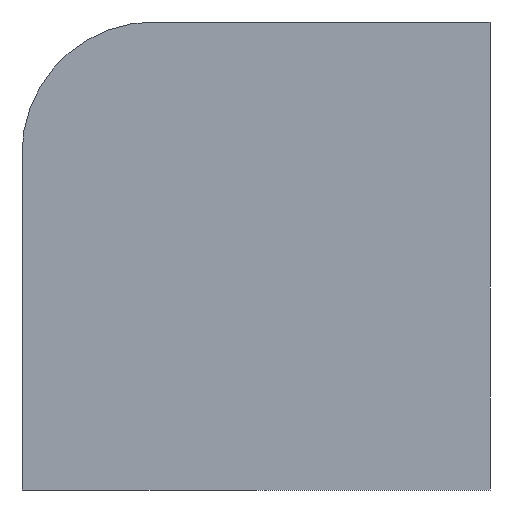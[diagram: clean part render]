
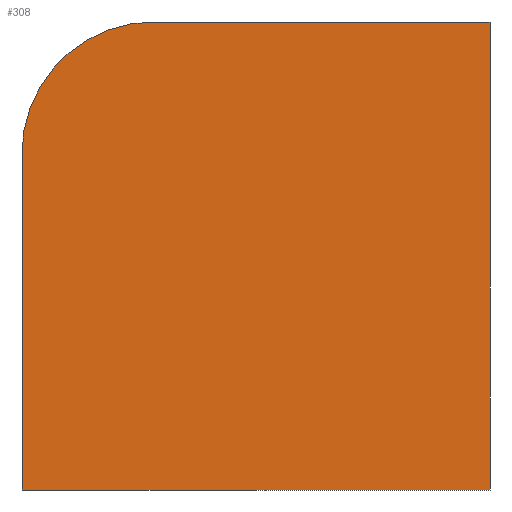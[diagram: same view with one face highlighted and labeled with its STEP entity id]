
A CAD part, left-side view. The second image highlights one B-rep face of the part: STEP entity #308.
In plain terms, the highlighted planar face has unit normal (-1, 0, 0).
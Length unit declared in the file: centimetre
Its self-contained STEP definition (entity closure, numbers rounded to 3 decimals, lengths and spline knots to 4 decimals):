
#5 = VECTOR ( 'NONE', #399, 100. ) ;
#10 = LINE ( 'NONE', #271, #443 ) ;
#20 = ORIENTED_EDGE ( 'NONE', *, *, #105, .T. ) ;
#49 = DIRECTION ( 'NONE',  ( 0., 0., -1. ) ) ;
#63 = EDGE_CURVE ( 'NONE', #275, #818, #713, .T. ) ;
#90 = ORIENTED_EDGE ( 'NONE', *, *, #580, .F. ) ;
#94 = VERTEX_POINT ( 'NONE', #270 ) ;
#101 = ORIENTED_EDGE ( 'NONE', *, *, #759, .T. ) ;
#105 = EDGE_CURVE ( 'NONE', #94, #564, #131, .T. ) ;
#131 = LINE ( 'NONE', #720, #176 ) ;
#169 = DIRECTION ( 'NONE',  ( 1., 0., 0. ) ) ;
#173 = CARTESIAN_POINT ( 'NONE',  ( 0., 718.7641, 718.7641 ) ) ;
#176 = VECTOR ( 'NONE', #537, 100. ) ;
#198 = LINE ( 'NONE', #396, #458 ) ;
#235 = EDGE_CURVE ( 'NONE', #564, #818, #198, .T. ) ;
#250 = AXIS2_PLACEMENT_3D ( 'NONE', #432, #169, #439 ) ;
#263 = CARTESIAN_POINT ( 'NONE',  ( 0., 0., 1000. ) ) ;
#267 = AXIS2_PLACEMENT_3D ( 'NONE', #173, #445, #49 ) ;
#270 = CARTESIAN_POINT ( 'NONE',  ( 0., 1000., 718.7641 ) ) ;
#271 = CARTESIAN_POINT ( 'NONE',  ( 0., 1000., 1000. ) ) ;
#275 = VERTEX_POINT ( 'NONE', #385 ) ;
#289 = ORIENTED_EDGE ( 'NONE', *, *, #63, .F. ) ;
#306 = FACE_OUTER_BOUND ( 'NONE', #547, .T. ) ;
#308 = ADVANCED_FACE ( 'NONE', ( #306 ), #823, .F. ) ;
#310 = CARTESIAN_POINT ( 'NONE',  ( 0., 0., 0. ) ) ;
#319 = DIRECTION ( 'NONE',  ( 0., -1., 0. ) ) ;
#357 = VERTEX_POINT ( 'NONE', #369 ) ;
#369 = CARTESIAN_POINT ( 'NONE',  ( 0., 718.7641, 1000. ) ) ;
#385 = CARTESIAN_POINT ( 'NONE',  ( 0., 0., 1000. ) ) ;
#396 = CARTESIAN_POINT ( 'NONE',  ( 0., 1000., 0. ) ) ;
#399 = DIRECTION ( 'NONE',  ( 0., 0., -1. ) ) ;
#403 = CARTESIAN_POINT ( 'NONE',  ( 0., 1000., 0. ) ) ;
#432 = CARTESIAN_POINT ( 'NONE',  ( 0., 1000., 1000. ) ) ;
#439 = DIRECTION ( 'NONE',  ( 0., 0., -1. ) ) ;
#443 = VECTOR ( 'NONE', #538, 100. ) ;
#445 = DIRECTION ( 'NONE',  ( -1., 0., 0. ) ) ;
#458 = VECTOR ( 'NONE', #319, 100. ) ;
#537 = DIRECTION ( 'NONE',  ( 0., 0., -1. ) ) ;
#538 = DIRECTION ( 'NONE',  ( 0., -1., 0. ) ) ;
#547 = EDGE_LOOP ( 'NONE', ( #90, #101, #20, #751, #289 ) ) ;
#564 = VERTEX_POINT ( 'NONE', #403 ) ;
#580 = EDGE_CURVE ( 'NONE', #357, #275, #10, .T. ) ;
#713 = LINE ( 'NONE', #263, #5 ) ;
#720 = CARTESIAN_POINT ( 'NONE',  ( 0., 1000., 1000. ) ) ;
#751 = ORIENTED_EDGE ( 'NONE', *, *, #235, .T. ) ;
#759 = EDGE_CURVE ( 'NONE', #357, #94, #838, .T. ) ;
#818 = VERTEX_POINT ( 'NONE', #310 ) ;
#823 = PLANE ( 'NONE',  #250 ) ;
#838 = CIRCLE ( 'NONE', #267, 281.2359 ) ;
